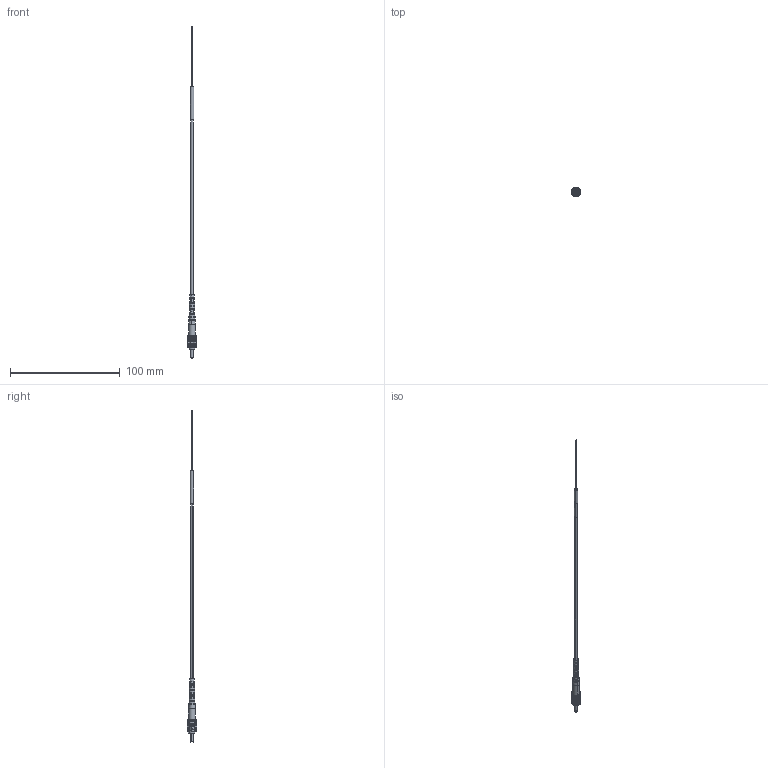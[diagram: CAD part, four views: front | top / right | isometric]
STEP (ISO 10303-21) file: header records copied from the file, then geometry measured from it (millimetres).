
FILE_DESCRIPTION (( 'STEP AP214' ), '1' );
FILE_NAME ('PRB-400-02M-STM-MRI 2.STEP', '2017-06-30T02:02:39', ( '' ), ( '' ), 'SwSTEP 2.0', 'SolidWorks 2017', '' );
FILE_SCHEMA (( 'AUTOMOTIVE_DESIGN' ));
Length unit declared in the file: millimetre
Products named in the file (6): Import 5; Import 3; Import 2; PRB-400-02M-STM-MRI 2; Import 1; Import 4
Assembly tree (5 placements, depth 2):
  PRB-400-02M-STM-MRI 2
    Import 1
    Import 2
    Import 3
    Import 4
    Import 5
Bounding box: 9.02 x 9.02 x 302 mm (x, y, z)
Volume: 1196.6 mm3; surface area: 5004.7 mm2
Topology: 6 solids, 7 shells, 618 faces, 1819 edges, 1194 vertices
Faces by surface type: plane 351, cylinder 247, cone 10, bspline 8, torus 2
Entity records: 27785 total; most frequent: CARTESIAN_POINT 5946, ORIENTED_EDGE 3634, DIRECTION 3237, EDGE_CURVE 1819, VERTEX_POINT 1194, LINE 1147, VECTOR 1147, AXIS2_PLACEMENT_3D 1045
